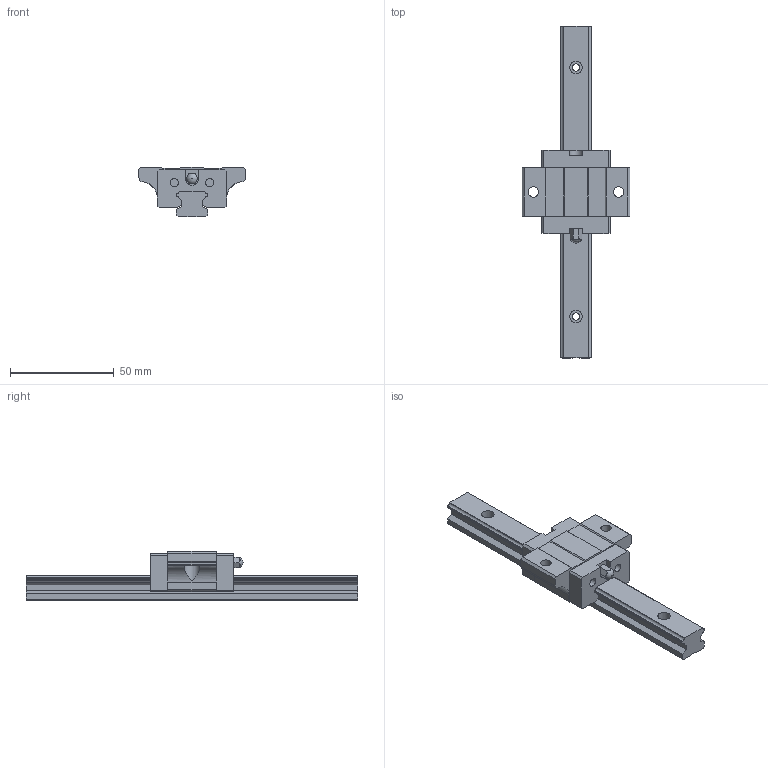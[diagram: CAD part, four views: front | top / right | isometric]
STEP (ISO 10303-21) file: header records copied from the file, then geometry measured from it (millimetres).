
FILE_DESCRIPTION(/* description */ (''),/* implementation_level */ '2;1');
FILE_NAME(/* name */ 'MSB15TE',/* time_stamp */ '2004-05-24T10:56:40+08:00',/* author */ (''),/* organization */ (''),/* preprocessor_version */ 'ST-DEVELOPER v8',/* originating_system */ '',/* authorisation */ '');
FILE_SCHEMA (('CONFIG_CONTROL_DESIGN'));
Length unit declared in the file: millimetre
Products named in the file (1): zirc170C0010
Bounding box: 52 x 160 x 24 mm (x, y, z)
Volume: 48470 mm3; surface area: 17966.8 mm2
Topology: 3 solids, 3 shells, 143 faces, 391 edges, 261 vertices
Faces by surface type: plane 113, cylinder 28, sphere 2
Full cylindrical faces by diameter (mm): 3.5 x3, 4 x6, 5 x2, 6 x3
Entity records: 4558 total; most frequent: CARTESIAN_POINT 826, ORIENTED_EDGE 748, DIRECTION 734, EDGE_CURVE 374, LINE 298, VECTOR 298, VERTEX_POINT 258, AXIS2_PLACEMENT_3D 218
